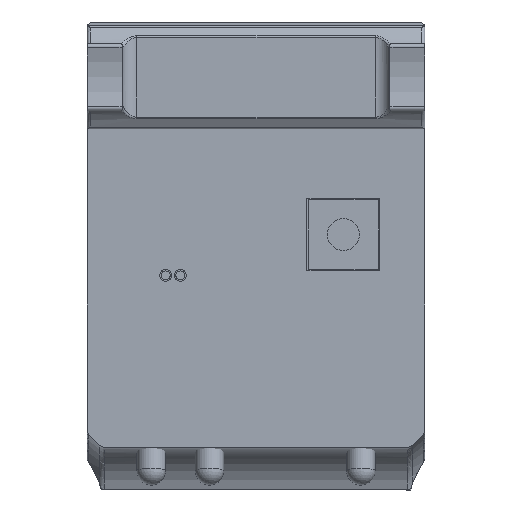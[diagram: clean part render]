
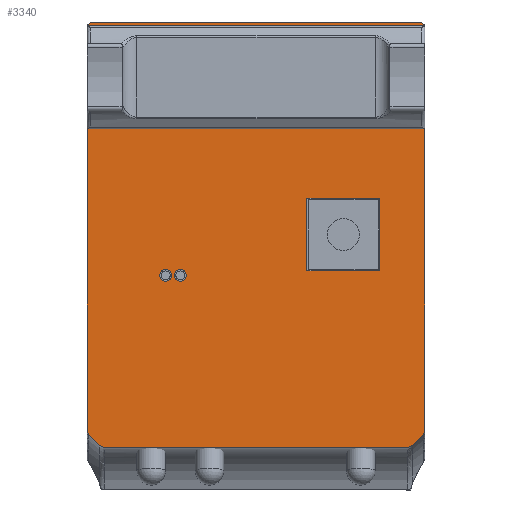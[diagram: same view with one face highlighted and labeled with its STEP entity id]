
A CAD part, front view. The second image highlights one B-rep face of the part: STEP entity #3340.
In plain terms, the highlighted planar face has unit normal (0, -1, 0).
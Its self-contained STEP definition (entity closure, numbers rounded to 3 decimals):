
#43=B_SPLINE_CURVE_WITH_KNOTS('',3,(#5406,#5407,#5408,#5409),
 .UNSPECIFIED.,.F.,.F.,(4,4),(0.,0.001),.UNSPECIFIED.);
#44=B_SPLINE_CURVE_WITH_KNOTS('',3,(#5411,#5412,#5413,#5414),
 .UNSPECIFIED.,.F.,.F.,(4,4),(0.,0.003),
 .UNSPECIFIED.);
#45=B_SPLINE_CURVE_WITH_KNOTS('',3,(#5416,#5417,#5418,#5419),
 .UNSPECIFIED.,.F.,.F.,(4,4),(0.,0.001),
 .UNSPECIFIED.);
#46=B_SPLINE_CURVE_WITH_KNOTS('',3,(#5423,#5424,#5425,#5426),
 .UNSPECIFIED.,.F.,.F.,(4,4),(0.,0.001),.UNSPECIFIED.);
#47=B_SPLINE_CURVE_WITH_KNOTS('',3,(#5428,#5429,#5430,#5431),
 .UNSPECIFIED.,.F.,.F.,(4,4),(0.,0.003),
 .UNSPECIFIED.);
#48=B_SPLINE_CURVE_WITH_KNOTS('',3,(#5433,#5434,#5435,#5436),
 .UNSPECIFIED.,.F.,.F.,(4,4),(0.,0.001),
 .UNSPECIFIED.);
#178=CIRCLE('',#3685,0.9);
#179=CIRCLE('',#3686,0.9);
#180=CIRCLE('',#3687,1.);
#181=CIRCLE('',#3688,1.);
#182=CIRCLE('',#3689,1.);
#183=CIRCLE('',#3690,1.);
#653=ORIENTED_EDGE('',*,*,#1492,.T.);
#654=ORIENTED_EDGE('',*,*,#1493,.T.);
#655=ORIENTED_EDGE('',*,*,#1494,.T.);
#656=ORIENTED_EDGE('',*,*,#1495,.T.);
#657=ORIENTED_EDGE('',*,*,#1496,.T.);
#658=ORIENTED_EDGE('',*,*,#1497,.T.);
#659=ORIENTED_EDGE('',*,*,#1498,.F.);
#660=ORIENTED_EDGE('',*,*,#1499,.F.);
#661=ORIENTED_EDGE('',*,*,#1500,.T.);
#662=ORIENTED_EDGE('',*,*,#1501,.T.);
#663=ORIENTED_EDGE('',*,*,#1502,.F.);
#664=ORIENTED_EDGE('',*,*,#1503,.T.);
#665=ORIENTED_EDGE('',*,*,#1504,.F.);
#666=ORIENTED_EDGE('',*,*,#1505,.T.);
#667=ORIENTED_EDGE('',*,*,#1506,.T.);
#668=ORIENTED_EDGE('',*,*,#1507,.T.);
#669=ORIENTED_EDGE('',*,*,#1508,.T.);
#670=ORIENTED_EDGE('',*,*,#1509,.T.);
#671=ORIENTED_EDGE('',*,*,#1510,.T.);
#672=ORIENTED_EDGE('',*,*,#1511,.T.);
#1492=EDGE_CURVE('',#1924,#1925,#2266,.T.);
#1493=EDGE_CURVE('',#1925,#1926,#2267,.T.);
#1494=EDGE_CURVE('',#1926,#1927,#2268,.T.);
#1495=EDGE_CURVE('',#1927,#1924,#2269,.T.);
#1496=EDGE_CURVE('',#1928,#1928,#178,.T.);
#1497=EDGE_CURVE('',#1929,#1929,#179,.T.);
#1498=EDGE_CURVE('',#1930,#1930,#180,.T.);
#1499=EDGE_CURVE('',#1931,#1931,#181,.T.);
#1500=EDGE_CURVE('',#1932,#1933,#2270,.T.);
#1501=EDGE_CURVE('',#1933,#1934,#182,.F.);
#1502=EDGE_CURVE('',#1935,#1934,#2271,.T.);
#1503=EDGE_CURVE('',#1935,#1936,#183,.F.);
#1504=EDGE_CURVE('',#1937,#1936,#2272,.T.);
#1505=EDGE_CURVE('',#1937,#1938,#43,.T.);
#1506=EDGE_CURVE('',#1938,#1939,#44,.T.);
#1507=EDGE_CURVE('',#1939,#1940,#45,.T.);
#1508=EDGE_CURVE('',#1940,#1941,#2273,.T.);
#1509=EDGE_CURVE('',#1941,#1942,#46,.T.);
#1510=EDGE_CURVE('',#1942,#1943,#47,.T.);
#1511=EDGE_CURVE('',#1943,#1932,#48,.T.);
#1924=VERTEX_POINT('',#5380);
#1925=VERTEX_POINT('',#5381);
#1926=VERTEX_POINT('',#5383);
#1927=VERTEX_POINT('',#5385);
#1928=VERTEX_POINT('',#5388);
#1929=VERTEX_POINT('',#5390);
#1930=VERTEX_POINT('',#5392);
#1931=VERTEX_POINT('',#5394);
#1932=VERTEX_POINT('',#5396);
#1933=VERTEX_POINT('',#5397);
#1934=VERTEX_POINT('',#5399);
#1935=VERTEX_POINT('',#5401);
#1936=VERTEX_POINT('',#5403);
#1937=VERTEX_POINT('',#5405);
#1938=VERTEX_POINT('',#5410);
#1939=VERTEX_POINT('',#5415);
#1940=VERTEX_POINT('',#5420);
#1941=VERTEX_POINT('',#5422);
#1942=VERTEX_POINT('',#5427);
#1943=VERTEX_POINT('',#5432);
#2266=LINE('',#5379,#2524);
#2267=LINE('',#5382,#2525);
#2268=LINE('',#5384,#2526);
#2269=LINE('',#5386,#2527);
#2270=LINE('',#5395,#2528);
#2271=LINE('',#5400,#2529);
#2272=LINE('',#5404,#2530);
#2273=LINE('',#5421,#2531);
#2524=VECTOR('',#4302,1000.);
#2525=VECTOR('',#4303,1000.);
#2526=VECTOR('',#4304,1000.);
#2527=VECTOR('',#4305,1000.);
#2528=VECTOR('',#4314,1000.);
#2529=VECTOR('',#4317,1000.);
#2530=VECTOR('',#4320,1000.);
#2531=VECTOR('',#4321,1000.);
#2691=EDGE_LOOP('',(#653,#654,#655,#656));
#2692=EDGE_LOOP('',(#657));
#2693=EDGE_LOOP('',(#658));
#2694=EDGE_LOOP('',(#659));
#2695=EDGE_LOOP('',(#660));
#2696=EDGE_LOOP('',(#661,#662,#663,#664,#665,#666,#667,#668,#669,#670,#671,
#672));
#2961=FACE_BOUND('',#2691,.T.);
#2962=FACE_BOUND('',#2692,.T.);
#2963=FACE_BOUND('',#2693,.T.);
#2964=FACE_BOUND('',#2694,.T.);
#2965=FACE_BOUND('',#2695,.T.);
#2966=FACE_BOUND('',#2696,.T.);
#3219=PLANE('',#3684);
#3340=ADVANCED_FACE('',(#2961,#2962,#2963,#2964,#2965,#2966),#3219,.F.);
#3684=AXIS2_PLACEMENT_3D('',#5378,#4300,#4301);
#3685=AXIS2_PLACEMENT_3D('',#5387,#4306,#4307);
#3686=AXIS2_PLACEMENT_3D('',#5389,#4308,#4309);
#3687=AXIS2_PLACEMENT_3D('',#5391,#4310,#4311);
#3688=AXIS2_PLACEMENT_3D('',#5393,#4312,#4313);
#3689=AXIS2_PLACEMENT_3D('',#5398,#4315,#4316);
#3690=AXIS2_PLACEMENT_3D('',#5402,#4318,#4319);
#4300=DIRECTION('',(0.,1.,0.));
#4301=DIRECTION('',(0.,0.,1.));
#4302=DIRECTION('',(1.,0.,0.));
#4303=DIRECTION('',(0.,0.,-1.));
#4304=DIRECTION('',(-1.,0.,0.));
#4305=DIRECTION('',(0.,0.,1.));
#4306=DIRECTION('',(0.,1.,0.));
#4307=DIRECTION('',(0.,0.,-1.));
#4308=DIRECTION('',(0.,1.,0.));
#4309=DIRECTION('',(0.,0.,-1.));
#4310=DIRECTION('',(0.,-1.,0.));
#4311=DIRECTION('',(1.,0.,0.));
#4312=DIRECTION('',(0.,-1.,0.));
#4313=DIRECTION('',(1.,0.,0.));
#4314=DIRECTION('',(1.,0.,0.));
#4315=DIRECTION('',(0.,1.,0.));
#4316=DIRECTION('',(0.,0.,1.));
#4317=DIRECTION('',(0.,0.,-1.));
#4318=DIRECTION('',(0.,1.,0.));
#4319=DIRECTION('',(0.,0.,1.));
#4320=DIRECTION('',(1.,0.,0.));
#4321=DIRECTION('',(0.,0.,-1.));
#5378=CARTESIAN_POINT('',(35.1,-4.5,29.));
#5379=CARTESIAN_POINT('',(35.1,-4.5,-8.75));
#5380=CARTESIAN_POINT('',(-6.25,-4.5,-8.75));
#5381=CARTESIAN_POINT('',(6.25,-4.5,-8.75));
#5382=CARTESIAN_POINT('',(6.25,-4.5,29.));
#5383=CARTESIAN_POINT('',(6.25,-4.5,-21.25));
#5384=CARTESIAN_POINT('',(35.1,-4.5,-21.25));
#5385=CARTESIAN_POINT('',(-6.25,-4.5,-21.25));
#5386=CARTESIAN_POINT('',(-6.25,-4.5,29.));
#5387=CARTESIAN_POINT('',(27.,-4.5,-26.));
#5388=CARTESIAN_POINT('',(27.,-4.5,-26.9));
#5389=CARTESIAN_POINT('',(27.,-4.5,26.));
#5390=CARTESIAN_POINT('',(27.,-4.5,25.1));
#5391=CARTESIAN_POINT('',(-7.,-4.5,15.5));
#5392=CARTESIAN_POINT('',(-6.,-4.5,15.5));
#5393=CARTESIAN_POINT('',(-7.,-4.5,13.));
#5394=CARTESIAN_POINT('',(-6.,-4.5,13.));
#5395=CARTESIAN_POINT('',(35.1,-4.5,-29.));
#5396=CARTESIAN_POINT('',(-33.573,-4.5,-29.));
#5397=CARTESIAN_POINT('',(35.5,-4.5,-29.));
#5398=CARTESIAN_POINT('',(35.5,-4.5,-28.));
#5399=CARTESIAN_POINT('',(36.5,-4.5,-28.));
#5400=CARTESIAN_POINT('',(36.5,-4.5,29.));
#5401=CARTESIAN_POINT('',(36.5,-4.5,28.));
#5402=CARTESIAN_POINT('',(35.5,-4.5,28.));
#5403=CARTESIAN_POINT('',(35.5,-4.5,29.));
#5404=CARTESIAN_POINT('',(35.1,-4.5,29.));
#5405=CARTESIAN_POINT('',(-33.573,-4.5,29.));
#5406=CARTESIAN_POINT('',(-33.573,-4.5,29.));
#5407=CARTESIAN_POINT('',(-33.838,-4.5,29.));
#5408=CARTESIAN_POINT('',(-34.095,-4.5,28.894));
#5409=CARTESIAN_POINT('',(-34.283,-4.5,28.707));
#5410=CARTESIAN_POINT('',(-34.283,-4.5,28.707));
#5411=CARTESIAN_POINT('',(-34.283,-4.5,28.707));
#5412=CARTESIAN_POINT('',(-34.924,-4.5,28.069));
#5413=CARTESIAN_POINT('',(-35.564,-4.5,27.431));
#5414=CARTESIAN_POINT('',(-36.206,-4.5,26.793));
#5415=CARTESIAN_POINT('',(-36.206,-4.5,26.793));
#5416=CARTESIAN_POINT('',(-36.206,-4.5,26.793));
#5417=CARTESIAN_POINT('',(-36.393,-4.5,26.607));
#5418=CARTESIAN_POINT('',(-36.5,-4.5,26.35));
#5419=CARTESIAN_POINT('',(-36.5,-4.5,26.086));
#5420=CARTESIAN_POINT('',(-36.5,-4.5,26.086));
#5421=CARTESIAN_POINT('',(-36.5,-4.5,29.));
#5422=CARTESIAN_POINT('',(-36.5,-4.5,-26.086));
#5423=CARTESIAN_POINT('',(-36.5,-4.5,-26.086));
#5424=CARTESIAN_POINT('',(-36.5,-4.5,-26.35));
#5425=CARTESIAN_POINT('',(-36.393,-4.5,-26.607));
#5426=CARTESIAN_POINT('',(-36.206,-4.5,-26.793));
#5427=CARTESIAN_POINT('',(-36.206,-4.5,-26.793));
#5428=CARTESIAN_POINT('',(-36.206,-4.5,-26.793));
#5429=CARTESIAN_POINT('',(-35.564,-4.5,-27.431));
#5430=CARTESIAN_POINT('',(-34.924,-4.5,-28.069));
#5431=CARTESIAN_POINT('',(-34.283,-4.5,-28.707));
#5432=CARTESIAN_POINT('',(-34.283,-4.5,-28.707));
#5433=CARTESIAN_POINT('',(-34.283,-4.5,-28.707));
#5434=CARTESIAN_POINT('',(-34.095,-4.5,-28.894));
#5435=CARTESIAN_POINT('',(-33.838,-4.5,-29.));
#5436=CARTESIAN_POINT('',(-33.573,-4.5,-29.));
